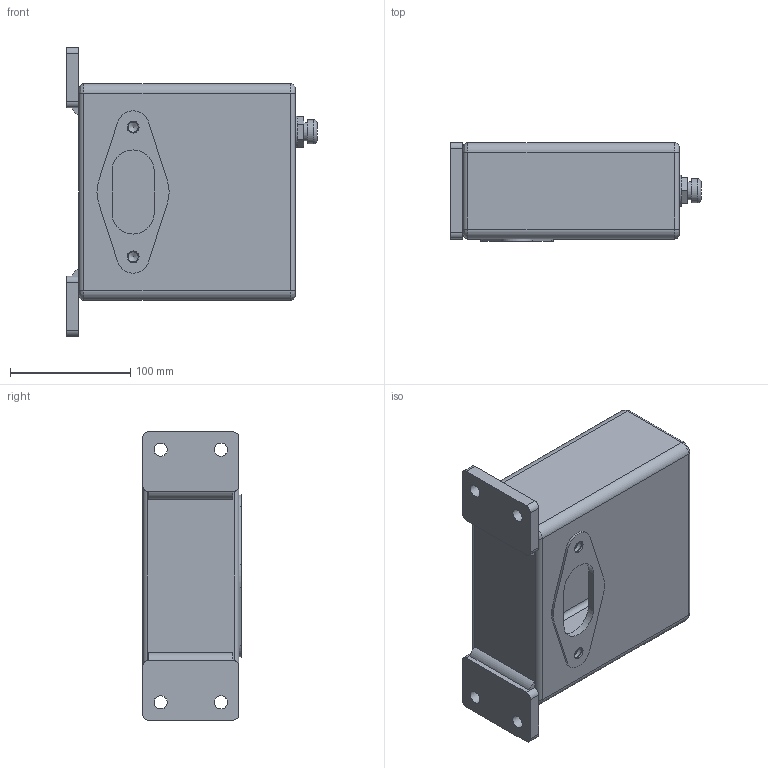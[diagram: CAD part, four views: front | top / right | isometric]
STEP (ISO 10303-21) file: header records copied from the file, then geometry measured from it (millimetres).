
FILE_DESCRIPTION((''),'2;1');
FILE_NAME('G:\HV_HYDRAULIC\AZIENDA_HV_HYDRAULIC\ARCHIVIO_DISEGNI\5_PRODOTTI_FINITI\4_SERBATOI\6500_SERBATOI\6500.0201_S2_ac_PM2P_(HV)\6500.0201.stp','2024-09-16T16:32:57',('christian.scardovi'),(''),'Autodesk Inventor 2013','Autodesk Inventor 2013','');
FILE_SCHEMA(('AUTOMOTIVE_DESIGN { 1 0 10303 214 1 1 1 1 }'));
Length unit declared in the file: millimetre
Products named in the file (1): 6500.0201
Bounding box: 208 x 82 x 240 mm (x, y, z)
Volume: 539283.9 mm3; surface area: 243863.1 mm2
Topology: 1 solids, 1 shells, 152 faces, 362 edges, 224 vertices
Faces by surface type: plane 64, cylinder 48, cone 29, bspline 8, sphere 2, torus 1
Full cylindrical faces by diameter (mm): 8.376 x2, 10 x2, 11 x6, 15 x1, 16 x2, 16.5 x1, 20 x1, 26 x1
Entity records: 4636 total; most frequent: CARTESIAN_POINT 1137, DIRECTION 702, ORIENTED_EDGE 648, EDGE_CURVE 324, AXIS2_PLACEMENT_3D 281, VERTEX_POINT 212, EDGE_LOOP 198, STYLED_ITEM 153
